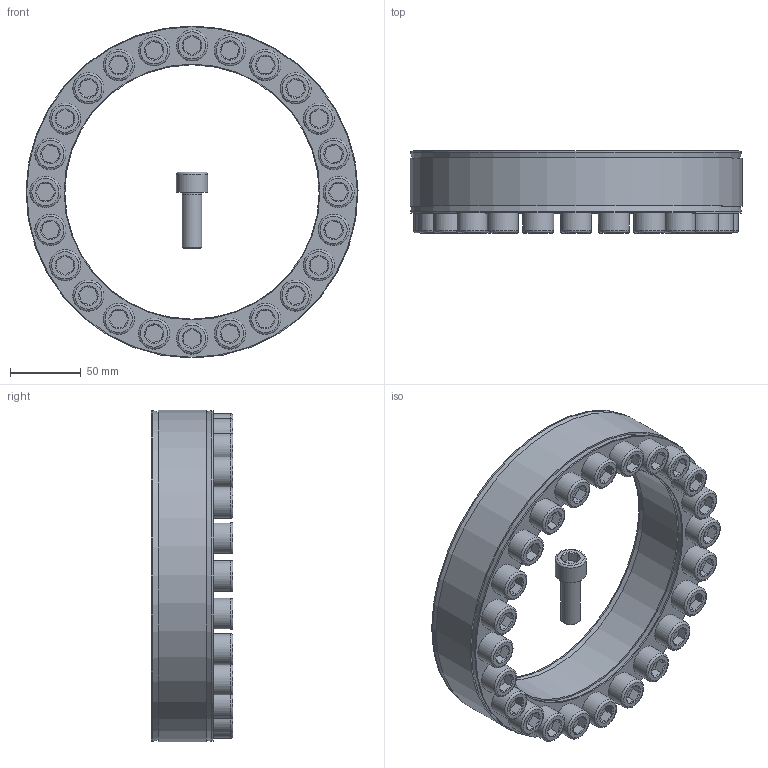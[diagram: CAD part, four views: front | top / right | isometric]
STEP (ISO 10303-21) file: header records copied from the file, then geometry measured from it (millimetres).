
FILE_DESCRIPTION( ( 'Unknown' ), '1' );
FILE_NAME( 'C:/Dokumente und Einstellungen/Sven/Desktop/homepage/cad - homepage/KBS40/KBS 40 - 180 x 235.stp', 'Unknown', ( 'Unknown' ), ( 'Unknown' ), 'XStep 1.0', 'Unknown', ' ' );
FILE_SCHEMA( ( 'automotive_design' ) );
Length unit declared in the file: millimetre
Products named in the file (26): Assem1; KBS 40 180x235; ISO 4762 M14x40; ISO 4762 M14x40-oa0; ISO 4762 M14x40-oa1; ISO 4762 M14x40-oa2; ISO 4762 M14x40-oa3; ISO 4762 M14x40-oa4; ISO 4762 M14x40-oa5; ISO 4762 M14x40-oa6; ISO 4762 M14x40-oa7; ISO 4762 M14x40-oa8; ISO 4762 M14x40-oa9; ISO 4762 M14x40-oa10; ISO 4762 M14x40-oa11; ISO 4762 M14x40-oa12; ISO 4762 M14x40-oa13; ISO 4762 M14x40-oa14; ISO 4762 M14x40-oa15; ISO 4762 M14x40-oa16; ISO 4762 M14x40-oa17; ISO 4762 M14x40-oa18; ISO 4762 M14x40-oa19; ISO 4762 M14x40-oa20; ISO 4762 M14x40-oa21; ISO 4762 M14x40-oa22
Bounding box: 234.99 x 58 x 234.98 mm (x, y, z)
Volume: 1736743 mm3; surface area: 450726.7 mm2
Topology: 50 solids, 50 shells, 1308 faces, 2396 edges, 1380 vertices
Faces by surface type: plane 616, cone 344, cylinder 252, torus 96
Full cylindrical faces by diameter (mm): 12 x48, 14 x144, 22 x48, 181 x4, 234 x4
Entity records: 16167 total; most frequent: CARTESIAN_POINT 3660, DIRECTION 2640, ORIENTED_EDGE 1896, AXIS2_PLACEMENT_3D 1156, EDGE_LOOP 1000, EDGE_CURVE 948, FACE_OUTER_BOUND 826, ADVANCED_FACE 654
